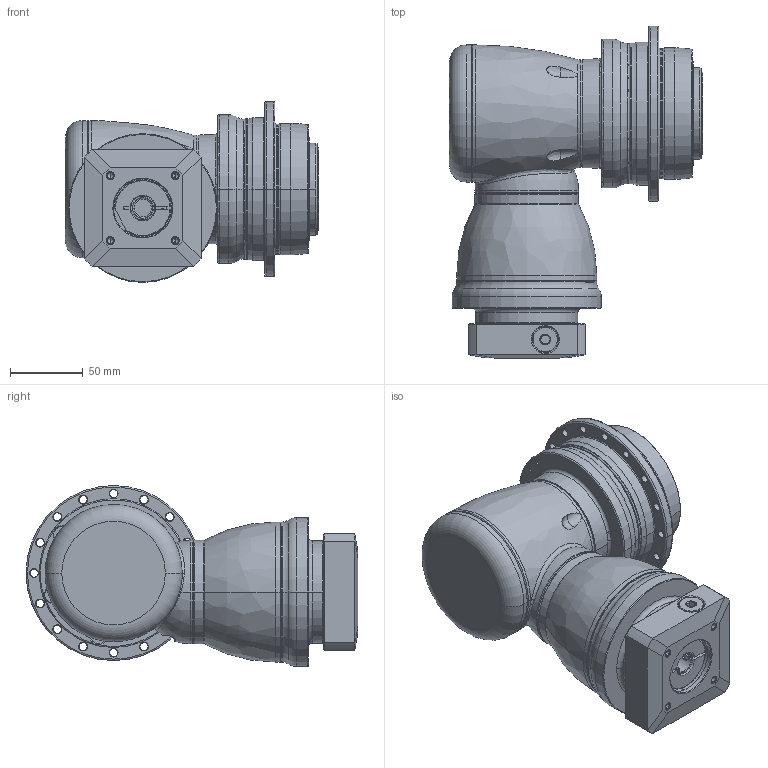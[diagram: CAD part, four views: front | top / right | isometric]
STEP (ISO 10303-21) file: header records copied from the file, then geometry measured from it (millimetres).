
FILE_DESCRIPTION((''),'2;1');
FILE_NAME('APK090_2ST_14-P0409320201_ASM','2018-11-01T',('D00126'),(''),'PRO/ENGINEER BY PARAMETRIC TECHNOLOGY CORPORATION, 2015240','PRO/ENGINEER BY PARAMETRIC TECHNOLOGY CORPORATION, 2015240','');
FILE_SCHEMA(('CONFIG_CONTROL_DESIGN'));
Length unit declared in the file: millimetre
Products named in the file (13): P1008300002; P1802310011; P0278301003; P0359301103; P1211300001; P1315300001; P1007301001; P1318310101; P0503300006; P0129301001; P0409320201; 21711412017; APK090_2ST_14-P0409320201_ASM
Assembly tree (12 placements, depth 2):
  APK090_2ST_14-P0409320201_ASM
    P1008300002
    P1802310011
    P0278301003
    P0359301103
    P1211300001
    P1315300001
    P1007301001
    P1318310101
    P0503300006
    P0129301001
    P0409320201
    21711412017
Bounding box: 173.5 x 227.5 x 124 mm (x, y, z)
Volume: 1882041.9 mm3; surface area: 263884.6 mm2
Topology: 13 solids, 34 shells, 759 faces, 1736 edges, 1049 vertices
Faces by surface type: cylinder 307, cone 185, plane 142, torus 84, bspline 39, sphere 2
Entity records: 26144 total; most frequent: CARTESIAN_POINT 8541, DIRECTION 4030, ORIENTED_EDGE 3290, AXIS2_PLACEMENT_3D 1737, EDGE_CURVE 1688, VERTEX_POINT 1043, CIRCLE 982, EDGE_LOOP 893
